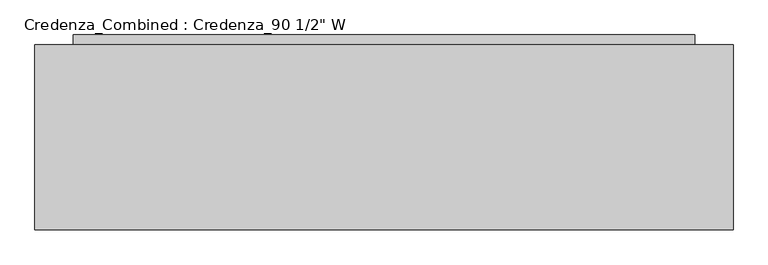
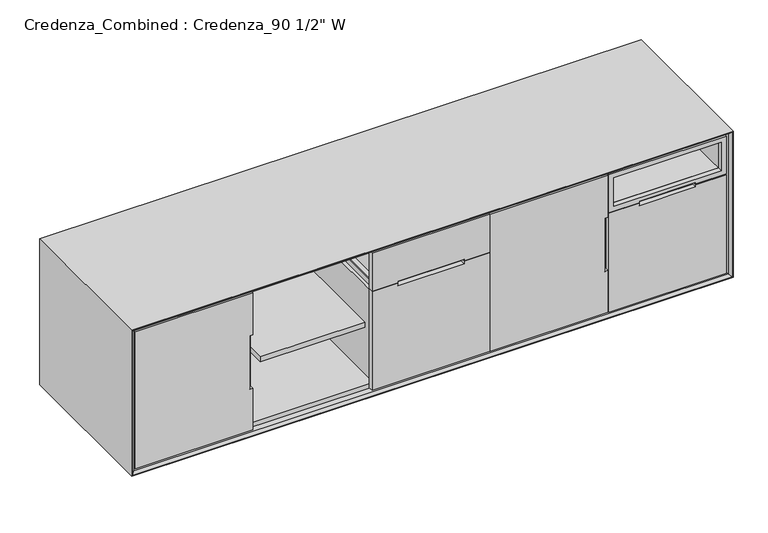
"""IFC4 building model written with IfcOpenShell, lengths in millimetres: furniture geometry."""

from ifc_helpers import new_model, si_unit, frame, origin, origin_with_axes, place, context, project, spatial, polyline, outline, extrude, faceted_brep, source, transform, mapped, element, save


def furniture_8cc410aa(model_context):
    return source(origin(), model_context, "Body", "SolidModel", [
        extrude(outline(polyline([(2260.6, 609.6), (2260.6, 28.575), (1846.2625, 28.575), (1846.2625, 609.6), (2260.6, 609.6)]), holes=[polyline([(1858.9625, 596.9), (1858.9625, 41.275), (2246.3125, 41.275), (2246.3125, 596.9), (1858.9625, 596.9)])]), frame((0.0, 0.0, 118.26875), z_axis=(0.0, 0.0, 1.0), x_axis=(1.0, 0.0, 0.0)), (0.0, 0.0, 1.0), 360.3625),
        extrude(outline(polyline([(642.14375, 2260.6), (642.14375, 1846.2625), (524.66875, 1846.2625), (524.66875, 2260.6), (642.14375, 2260.6)]), holes=[polyline([(640.55625, 2259.0125), (526.25625, 2259.0125), (526.25625, 1847.85), (640.55625, 1847.85), (640.55625, 2259.0125)])]), frame((0.0, 28.575, 0.0), z_axis=(0.0, 1.0, 0.0), x_axis=(0.0, 0.0, 1.0)), (0.0, 0.0, 1.0), 581.025),
        extrude(outline(polyline([(504.03125, 1828.8), (105.56875, 1828.8), (105.56875, 2278.0625), (504.03125, 2278.0625), (504.03125, 2161.38125), (494.7030946, 2161.38125), (494.7030946, 1945.48125), (504.03125, 1945.48125), (504.03125, 1828.8)])), frame((0.0, 9.525, 0.0), z_axis=(0.0, 1.0, 0.0), x_axis=(0.0, 0.0, 1.0)), (0.0, 0.0, 1.0), 19.05),
        extrude(outline(polyline([(659.60625, 2278.0625), (659.60625, 1828.8), (507.20625, 1828.8), (507.20625, 1945.48125), (513.3594054, 1945.48125), (513.3594054, 2161.38125), (507.20625, 2161.38125), (507.20625, 2278.0625), (659.60625, 2278.0625)]), holes=[polyline([(640.55625, 1847.85), (640.55625, 2259.0125), (526.25625, 2259.0125), (526.25625, 1847.85), (640.55625, 1847.85)])]), frame((0.0, 9.525, 0.0), z_axis=(0.0, 1.0, 0.0), x_axis=(0.0, 0.0, 1.0)), (0.0, 0.0, 1.0), 19.05),
        faceted_brep([(1825.625, 28.575, 659.60625), (1376.3625, 28.575, 659.60625), (1376.3625, 9.525, 659.60625), (1825.625, 9.525, 659.60625), (1825.625, 28.575, 105.56875), (1825.625, 9.525, 105.56875), (1376.3625, 9.525, 105.56875), (1376.3625, 28.575, 105.56875), (1825.625, 9.525, 274.6375), (1812.925, 9.525, 274.6375), (1812.925, 9.525, 490.5375), (1825.625, 9.525, 490.5375), (1825.625, 25.4, 490.5375), (1825.625, 25.4, 274.6375), (1812.925, 25.4, 490.5375), (1812.925, 25.4, 274.6375)], [[[0, 1, 2, 3]], [[4, 5, 6, 7]], [[1, 0, 4, 7]], [[2, 1, 7, 6]], [[3, 2, 6, 5, 8, 9, 10, 11]], [[0, 3, 11, 12, 13, 8, 5, 4]], [[12, 14, 15, 13]], [[14, 12, 11, 10]], [[15, 14, 10, 9]], [[13, 15, 9, 8]]]),
        extrude(outline(polyline([(1825.625, 609.6), (1825.625, 28.575), (1376.3625, 28.575), (1376.3625, 609.6), (1825.625, 609.6)])), frame((0.0, 0.0, 382.5875), z_axis=(0.0, 0.0, 1.0), x_axis=(1.0, 0.0, 0.0)), (0.0, 0.0, 1.0), 19.05),
        faceted_brep([(1297.9082407, 93.4200979, 124.61875), (1297.9082407, 244.7174021, 124.61875), (999.2042593, 244.7174021, 124.61875), (999.2042593, 93.4200979, 124.61875), (1303.9341657, 250.7433271, 118.26875), (1303.9341657, 87.3941729, 118.26875), (993.1783343, 87.3941729, 118.26875), (993.1783343, 250.7433271, 118.26875), (1336.5595885, 283.36875, 492.91875), (1336.5595885, 283.36875, 499.26875), (1336.5595885, 54.76875, 499.26875), (1336.5595885, 54.76875, 492.91875), (1323.8595885, 270.66875, 492.91875), (1323.8595885, 67.46875, 492.91875), (1317.8336635, 264.642825, 499.26875), (1317.8336635, 73.494675, 499.26875), (960.5529115, 54.76875, 499.26875), (960.5529115, 54.76875, 492.91875), (973.2529115, 67.46875, 492.91875), (979.2788365, 73.494675, 499.26875), (960.5529115, 283.36875, 499.26875), (960.5529115, 283.36875, 492.91875), (973.2529115, 270.66875, 492.91875), (979.2788365, 264.642825, 499.26875)], [[[0, 1, 2, 3]], [[4, 5, 6, 7]], [[8, 9, 10, 11]], [[4, 12, 13, 5]], [[14, 1, 0, 15]], [[11, 10, 16, 17]], [[5, 13, 18, 6]], [[15, 0, 3, 19]], [[17, 16, 20, 21]], [[6, 18, 22, 7]], [[19, 3, 2, 23]], [[9, 8, 21, 20]], [[8, 11, 17, 21], [13, 12, 22, 18]], [[12, 4, 7, 22]], [[1, 14, 23, 2]], [[10, 9, 20, 16], [14, 15, 19, 23]]]),
        faceted_brep([(1297.9082407, 383.9325979, 124.61875), (1297.9082407, 535.2299021, 124.61875), (999.2042593, 535.2299021, 124.61875), (999.2042593, 383.9325979, 124.61875), (1303.9341657, 541.2558271, 118.26875), (1303.9341657, 377.9066729, 118.26875), (993.1783343, 377.9066729, 118.26875), (993.1783343, 541.2558271, 118.26875), (1336.5595885, 573.88125, 492.91875), (1336.5595885, 573.88125, 499.26875), (1336.5595885, 345.28125, 499.26875), (1336.5595885, 345.28125, 492.91875), (1323.8595885, 561.18125, 492.91875), (1323.8595885, 357.98125, 492.91875), (1317.8336635, 555.155325, 499.26875), (1317.8336635, 364.007175, 499.26875), (960.5529115, 345.28125, 499.26875), (960.5529115, 345.28125, 492.91875), (973.2529115, 357.98125, 492.91875), (979.2788365, 364.007175, 499.26875), (960.5529115, 573.88125, 499.26875), (960.5529115, 573.88125, 492.91875), (973.2529115, 561.18125, 492.91875), (979.2788365, 555.155325, 499.26875)], [[[0, 1, 2, 3]], [[4, 5, 6, 7]], [[8, 9, 10, 11]], [[4, 12, 13, 5]], [[14, 1, 0, 15]], [[11, 10, 16, 17]], [[5, 13, 18, 6]], [[15, 0, 3, 19]], [[17, 16, 20, 21]], [[6, 18, 22, 7]], [[19, 3, 2, 23]], [[9, 8, 21, 20]], [[8, 11, 17, 21], [13, 12, 22, 18]], [[12, 4, 7, 22]], [[1, 14, 23, 2]], [[10, 9, 20, 16], [14, 15, 19, 23]]]),
        extrude(outline(polyline([(1341.4375, 319.0875), (1341.4375, 300.0375), (954.0875, 300.0375), (954.0875, 319.0875), (1341.4375, 319.0875)])), frame((0.0, 0.0, 118.26875), z_axis=(0.0, 0.0, 1.0), x_axis=(1.0, 0.0, 0.0)), (0.0, 0.0, 1.0), 360.3625),
        faceted_brep([(1355.725, 609.6, 478.63125), (941.3875, 609.6, 478.63125), (941.3875, 28.575, 478.63125), (1355.725, 28.575, 478.63125), (954.0875, 596.9, 478.63125), (1341.4375, 596.9, 478.63125), (1341.4375, 41.275, 478.63125), (954.0875, 41.275, 478.63125), (1355.725, 609.6, 105.56875), (941.3875, 609.6, 105.56875), (941.3875, 28.575, 105.56875), (1355.725, 28.575, 105.56875), (954.0875, 596.9, 118.26875), (1341.4375, 596.9, 118.26875), (1341.4375, 41.275, 118.26875), (954.0875, 41.275, 118.26875)], [[[0, 1, 2, 3], [4, 5, 6, 7]], [[1, 0, 8, 9]], [[2, 1, 9, 10]], [[3, 2, 10, 11]], [[8, 0, 3, 11]], [[5, 4, 12, 13]], [[6, 5, 13, 14]], [[7, 6, 14, 15]], [[4, 7, 15, 12]], [[13, 12, 15, 14]], [[8, 11, 10, 9]]]),
        extrude(outline(polyline([(504.03125, 923.925), (105.56875, 923.925), (105.56875, 1373.1875), (504.03125, 1373.1875), (504.03125, 1275.55625), (494.7030946, 1275.55625), (494.7030946, 1021.55625), (504.03125, 1021.55625), (504.03125, 923.925)])), frame((0.0, 9.525, 0.0), z_axis=(0.0, 1.0, 0.0), x_axis=(0.0, 0.0, 1.0)), (0.0, 0.0, 1.0), 19.05),
        extrude(outline(polyline([(659.60625, 1373.1875), (659.60625, 923.925), (507.20625, 923.925), (507.20625, 1021.55625), (513.3594054, 1021.55625), (513.3594054, 1275.55625), (507.20625, 1275.55625), (507.20625, 1373.1875), (659.60625, 1373.1875)])), frame((0.0, 9.525, 0.0), z_axis=(0.0, 1.0, 0.0), x_axis=(0.0, 0.0, 1.0)), (0.0, 0.0, 1.0), 19.05),
        extrude(outline(polyline([(896.14375, 609.6), (896.14375, 9.525), (496.09375, 9.525), (496.09375, 609.6), (896.14375, 609.6)])), frame((0.0, 0.0, 371.475), z_axis=(0.0, 0.0, 1.0), x_axis=(1.0, 0.0, 0.0)), (0.0, 0.0, 1.0), 19.05),
        extrude(outline(polyline([(2171.7, 609.6), (2171.7, 241.3), (127.0, 241.3), (127.0, 609.6), (2171.7, 609.6)])), origin_with_axes(), (0.0, 0.0, 1.0), 87.3125),
        extrude(outline(polyline([(2171.7, 641.35), (2171.7, 609.6), (127.0, 609.6), (127.0, 641.35), (2171.7, 641.35)])), origin_with_axes(), (0.0, 0.0, 1.0), 647.7),
        extrude(outline(polyline([(665.1625, 2286.0), (665.1625, 12.7), (100.0125, 12.7), (100.0125, 2286.0), (665.1625, 2286.0)]), holes=[polyline([(646.1125, 31.75), (646.1125, 2266.95), (119.0625, 2266.95), (119.0625, 31.75), (646.1125, 31.75)])]), frame((0.0, 31.75, 0.0), z_axis=(0.0, 1.0, 0.0), x_axis=(0.0, 0.0, 1.0)), (0.0, 0.0, 1.0), 577.85),
        faceted_brep([(2286.0, 9.525, 665.1625), (2286.0, 609.6, 665.1625), (2286.0, 609.6, 100.0125), (2286.0, 9.525, 100.0125), (2295.525, 0.0, 674.6875), (2295.525, 0.0, 90.4875), (2298.7, 609.6, 677.8625), (2298.7, 0.0, 677.8625), (2298.7, 0.0, 87.3125), (2298.7, 609.6, 87.3125), (12.7, 609.6, 100.0125), (12.7, 9.525, 100.0125), (3.175, 0.0, 90.4875), (0.0, 0.0, 87.3125), (0.0, 609.6, 87.3125), (12.7, 609.6, 665.1625), (12.7, 9.525, 665.1625), (3.175, 0.0, 674.6875), (0.0, 0.0, 677.8625), (0.0, 609.6, 677.8625)], [[[0, 1, 2, 3]], [[4, 0, 3, 5]], [[6, 7, 8, 9]], [[3, 2, 10, 11]], [[5, 3, 11, 12]], [[9, 8, 13, 14]], [[11, 10, 15, 16]], [[12, 11, 16, 17]], [[14, 13, 18, 19]], [[9, 14, 19, 6], [1, 15, 10, 2]], [[16, 15, 1, 0]], [[17, 16, 0, 4]], [[7, 18, 13, 8], [5, 12, 17, 4]], [[19, 18, 7, 6]]]),
        faceted_brep([(468.3125, 28.575, 659.60625), (19.05, 28.575, 659.60625), (19.05, 9.525, 659.60625), (468.3125, 9.525, 659.60625), (468.3125, 28.575, 105.56875), (468.3125, 9.525, 105.56875), (19.05, 9.525, 105.56875), (19.05, 28.575, 105.56875), (468.3125, 9.525, 274.6375), (455.6125, 9.525, 274.6375), (455.6125, 9.525, 490.5375), (468.3125, 9.525, 490.5375), (468.3125, 25.4, 490.5375), (468.3125, 25.4, 274.6375), (455.6125, 25.4, 490.5375), (455.6125, 25.4, 274.6375)], [[[0, 1, 2, 3]], [[4, 5, 6, 7]], [[1, 0, 4, 7]], [[2, 1, 7, 6]], [[3, 2, 6, 5, 8, 9, 10, 11]], [[0, 3, 11, 12, 13, 8, 5, 4]], [[12, 14, 15, 13]], [[14, 12, 11, 10]], [[15, 14, 10, 9]], [[13, 15, 9, 8]]]),
        extrude(outline(polyline([(468.3125, 609.6), (468.3125, 28.575), (19.05, 28.575), (19.05, 609.6), (468.3125, 609.6)])), frame((0.0, 0.0, 382.5875), z_axis=(0.0, 0.0, 1.0), x_axis=(1.0, 0.0, 0.0)), (0.0, 0.0, 1.0), 19.05),
    ])


if __name__ == "__main__":
    model = new_model("IFC4")
    model_context = context("Model", 3, world=origin())
    ifc_project = project(units=[si_unit("LENGTHUNIT", "METRE", prefix="MILLI")], contexts=[model_context])
    site = spatial("IfcSite", under=ifc_project)
    building = spatial("IfcBuilding", under=site)
    placement = place(None, origin())
    furniture_shape = furniture_8cc410aa(model_context)
    element("IfcFurniture", 1, ObjectType="Credenza_Combined : Credenza_90 1/2\" W", at=placement, inside=building, context=model_context, shape_type="MappedRepresentation", body=[
        mapped(furniture_shape, transform((0.0, 0.0, 0.0), x_axis=(1.0, 0.0, 0.0), y_axis=(0.0, 1.0, 0.0), z_axis=(0.0, 0.0, 1.0))),
    ])
    save(model, "model.ifc")
